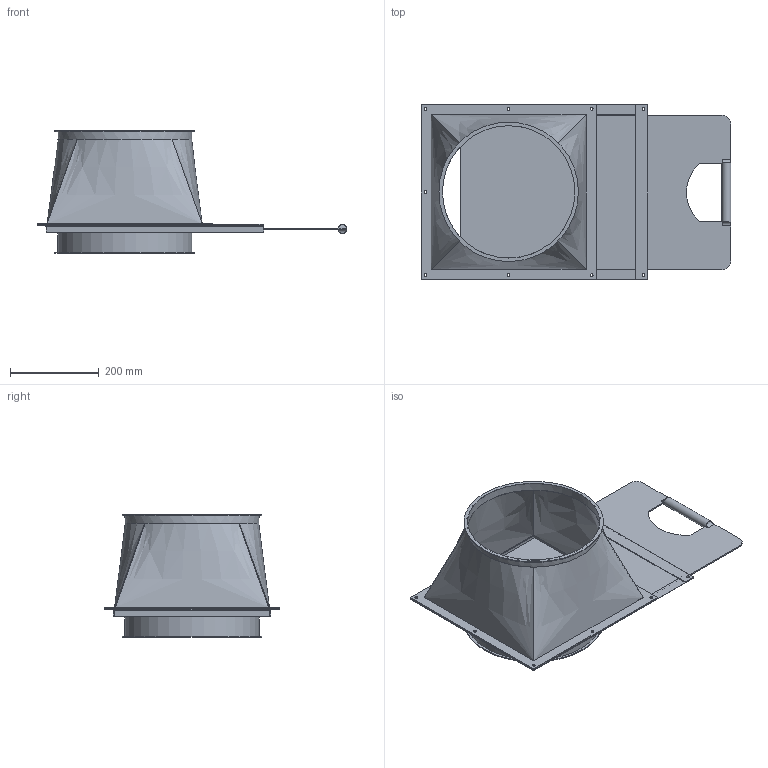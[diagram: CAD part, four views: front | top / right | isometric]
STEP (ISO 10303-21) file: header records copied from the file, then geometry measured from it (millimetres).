
FILE_DESCRIPTION((''),'2;1');
FILE_NAME('U:\Wolfgang\Marcel-3D\fertig\Kapitel 9\3021080.stp','2011-10-11T13:05:24',('iwienholt'),(''),'Autodesk Inventor 2010','Autodesk Inventor 2010','');
FILE_SCHEMA(('AUTOMOTIVE_DESIGN { 1 0 10303 214 1 1 1 1 }'));
Length unit declared in the file: millimetre
Products named in the file (4): 3021080; DN300-1; DN300-2; Schieberplatte DN300
Assembly tree (3 placements, depth 2):
  3021080
    DN300-1
    DN300-2
    Schieberplatte DN300
Bounding box: 699.13 x 395 x 277 mm (x, y, z)
Volume: 1723663.6 mm3; surface area: 1447062 mm2
Topology: 3 solids, 3 shells, 103 faces, 288 edges, 192 vertices
Faces by surface type: plane 56, bspline 25, cylinder 22
Full cylindrical faces by diameter (mm): 20 x1, 299 x2, 303 x3, 315 x2
Entity records: 4137 total; most frequent: CARTESIAN_POINT 1539, ORIENTED_EDGE 504, DIRECTION 470, EDGE_CURVE 252, VERTEX_POINT 181, EDGE_LOOP 171, AXIS2_PLACEMENT_3D 162, VECTOR 146
